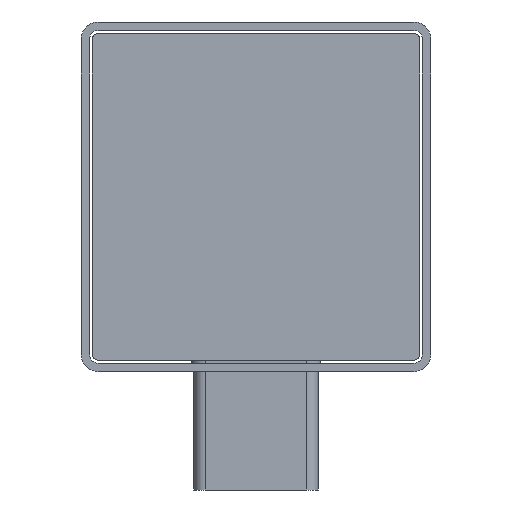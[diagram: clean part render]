
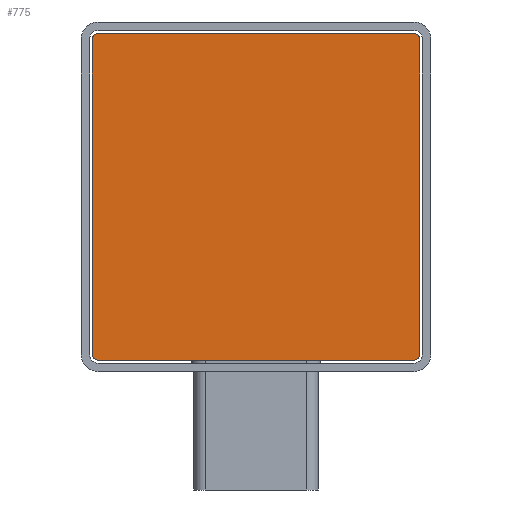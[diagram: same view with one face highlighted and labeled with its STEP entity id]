
A CAD part, front view. The second image highlights one B-rep face of the part: STEP entity #775.
In plain terms, the highlighted planar face has unit normal (0, -1, 0).
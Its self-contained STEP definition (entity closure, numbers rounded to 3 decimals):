
#11 = AXIS2_PLACEMENT_3D ( 'NONE', #1967, #1565, #3017 ) ;
#184 = CARTESIAN_POINT ( 'NONE',  ( 28., -183.02, 28. ) ) ;
#198 = ORIENTED_EDGE ( 'NONE', *, *, #1995, .F. ) ;
#202 = AXIS2_PLACEMENT_3D ( 'NONE', #3391, #2671, #3413 ) ;
#204 = DIRECTION ( 'NONE',  ( 0., 0., 1. ) ) ;
#326 = AXIS2_PLACEMENT_3D ( 'NONE', #2339, #542, #1996 ) ;
#367 = VERTEX_POINT ( 'NONE', #1545 ) ;
#542 = DIRECTION ( 'NONE',  ( 0., -1., 0. ) ) ;
#564 = EDGE_LOOP ( 'NONE', ( #4513, #4269, #2197, #3243, #2075, #2165, #198, #4463 ) ) ;
#576 = CARTESIAN_POINT ( 'NONE',  ( -29., -183.02, 0. ) ) ;
#603 = VERTEX_POINT ( 'NONE', #4283 ) ;
#775 = ADVANCED_FACE ( 'NONE', ( #1894 ), #3396, .T. ) ;
#956 = CIRCLE ( 'NONE', #2025, 1. ) ;
#1052 = EDGE_CURVE ( 'NONE', #3706, #1480, #2719, .T. ) ;
#1060 = LINE ( 'NONE', #1084, #3883 ) ;
#1084 = CARTESIAN_POINT ( 'NONE',  ( 29., -183.02, 0. ) ) ;
#1095 = CARTESIAN_POINT ( 'NONE',  ( -29., -183.02, 28. ) ) ;
#1163 = AXIS2_PLACEMENT_3D ( 'NONE', #4034, #1454, #2488 ) ;
#1454 = DIRECTION ( 'NONE',  ( 0., -1., 0. ) ) ;
#1480 = VERTEX_POINT ( 'NONE', #1095 ) ;
#1516 = DIRECTION ( 'NONE',  ( 0., 0., -1. ) ) ;
#1545 = CARTESIAN_POINT ( 'NONE',  ( 29., -183.02, 28. ) ) ;
#1565 = DIRECTION ( 'NONE',  ( 0., -1., 0. ) ) ;
#1600 = VERTEX_POINT ( 'NONE', #3398 ) ;
#1632 = DIRECTION ( 'NONE',  ( 0., 1., 0. ) ) ;
#1688 = CARTESIAN_POINT ( 'NONE',  ( -29., -183.02, -28. ) ) ;
#1759 = EDGE_CURVE ( 'NONE', #603, #2548, #2218, .T. ) ;
#1893 = VECTOR ( 'NONE', #204, 1000. ) ;
#1894 = FACE_OUTER_BOUND ( 'NONE', #564, .T. ) ;
#1967 = CARTESIAN_POINT ( 'NONE',  ( -28., -183.02, 28. ) ) ;
#1995 = EDGE_CURVE ( 'NONE', #367, #2548, #1060, .T. ) ;
#1996 = DIRECTION ( 'NONE',  ( 1., 0., 0. ) ) ;
#2025 = AXIS2_PLACEMENT_3D ( 'NONE', #184, #1632, #4588 ) ;
#2032 = VECTOR ( 'NONE', #2350, 1000. ) ;
#2043 = CIRCLE ( 'NONE', #11, 1. ) ;
#2075 = ORIENTED_EDGE ( 'NONE', *, *, #3379, .F. ) ;
#2165 = ORIENTED_EDGE ( 'NONE', *, *, #1759, .T. ) ;
#2167 = VERTEX_POINT ( 'NONE', #4210 ) ;
#2197 = ORIENTED_EDGE ( 'NONE', *, *, #1052, .F. ) ;
#2218 = CIRCLE ( 'NONE', #1163, 1. ) ;
#2339 = CARTESIAN_POINT ( 'NONE',  ( 0., -183.02, 0. ) ) ;
#2350 = DIRECTION ( 'NONE',  ( 1., 0., 0. ) ) ;
#2398 = VECTOR ( 'NONE', #2521, 1000. ) ;
#2488 = DIRECTION ( 'NONE',  ( 1., 0., 0. ) ) ;
#2521 = DIRECTION ( 'NONE',  ( -1., 0., 0. ) ) ;
#2548 = VERTEX_POINT ( 'NONE', #2927 ) ;
#2671 = DIRECTION ( 'NONE',  ( 0., 1., 0. ) ) ;
#2719 = LINE ( 'NONE', #576, #1893 ) ;
#2732 = EDGE_CURVE ( 'NONE', #4197, #1480, #2043, .T. ) ;
#2927 = CARTESIAN_POINT ( 'NONE',  ( 29., -183.02, -28. ) ) ;
#2980 = CARTESIAN_POINT ( 'NONE',  ( 0., -183.02, -29. ) ) ;
#3017 = DIRECTION ( 'NONE',  ( 1., 0., 0. ) ) ;
#3243 = ORIENTED_EDGE ( 'NONE', *, *, #4469, .F. ) ;
#3379 = EDGE_CURVE ( 'NONE', #603, #2167, #3624, .T. ) ;
#3391 = CARTESIAN_POINT ( 'NONE',  ( -28., -183.02, -28. ) ) ;
#3396 = PLANE ( 'NONE',  #326 ) ;
#3398 = CARTESIAN_POINT ( 'NONE',  ( 28., -183.02, 29. ) ) ;
#3413 = DIRECTION ( 'NONE',  ( 1., 0., 0. ) ) ;
#3451 = CARTESIAN_POINT ( 'NONE',  ( 0., -183.02, 29. ) ) ;
#3624 = LINE ( 'NONE', #2980, #2398 ) ;
#3706 = VERTEX_POINT ( 'NONE', #1688 ) ;
#3882 = EDGE_CURVE ( 'NONE', #4197, #1600, #4508, .T. ) ;
#3883 = VECTOR ( 'NONE', #1516, 1000. ) ;
#4034 = CARTESIAN_POINT ( 'NONE',  ( 28., -183.02, -28. ) ) ;
#4151 = CARTESIAN_POINT ( 'NONE',  ( -28., -183.02, 29. ) ) ;
#4197 = VERTEX_POINT ( 'NONE', #4151 ) ;
#4210 = CARTESIAN_POINT ( 'NONE',  ( -28., -183.02, -29. ) ) ;
#4214 = CIRCLE ( 'NONE', #202, 1. ) ;
#4269 = ORIENTED_EDGE ( 'NONE', *, *, #2732, .T. ) ;
#4283 = CARTESIAN_POINT ( 'NONE',  ( 28., -183.02, -29. ) ) ;
#4463 = ORIENTED_EDGE ( 'NONE', *, *, #4490, .F. ) ;
#4469 = EDGE_CURVE ( 'NONE', #2167, #3706, #4214, .T. ) ;
#4490 = EDGE_CURVE ( 'NONE', #1600, #367, #956, .T. ) ;
#4508 = LINE ( 'NONE', #3451, #2032 ) ;
#4513 = ORIENTED_EDGE ( 'NONE', *, *, #3882, .F. ) ;
#4588 = DIRECTION ( 'NONE',  ( 1., 0., 0. ) ) ;
